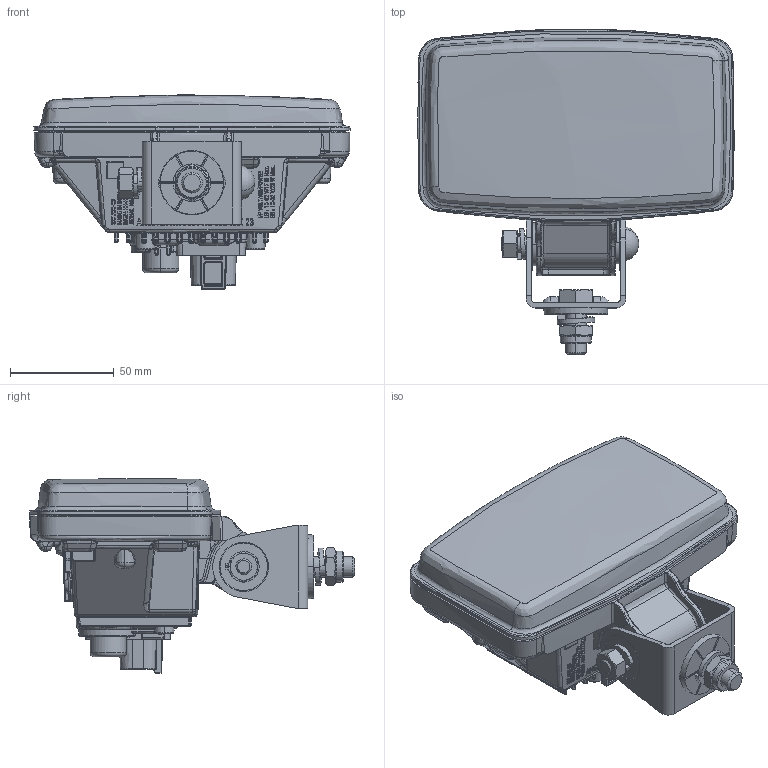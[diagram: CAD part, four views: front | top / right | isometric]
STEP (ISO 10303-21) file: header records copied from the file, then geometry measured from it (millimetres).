
FILE_DESCRIPTION(('CATIA V5 STEP Exchange','CAx-IF Rec.Pracs.--- Model Styling and Organization---1.5--- 2016-08-15','CAx-IF Rec.Pracs.---Supplemental Geometry---1.0---2011-11-01','CAx-IF Rec.Pracs.---Representation and Presentation of Product Manufacturing Information (PMI)---4.0---2014-10-13','CAx-IF Rec.Pracs.--- Composite Materials ---3.4---2017-06-13','CAx-IF Rec.Pracs.---Tessellated 3D Geometry---1.0---2015-12-17'),'2;1');
FILE_NAME('C:\Users\kumaan57\FORVIA\Welcome to the SOE Marketing Team Site - 03_3D data + mounting instruction\Postcard-327.210-00\POSTCARD_V3.stp','2026-05-25T06:08:24+00:00',('none'),('none'),'CATIA Version 5-6 Release 2024 SP3 HF29','CATIA V5 STEP AP242 v3','none');
FILE_SCHEMA(('AP242_MANAGED_MODEL_BASED_3D_ENGINEERING_MIM_LF {1 0 10303 442 3 1 4}'));
Products named in the file (1): POSTCARD_V3
Bounding box: 152.78 x 157 x 93.87 mm (x, y, z)
Volume: 663665.1 mm3; surface area: 86664.6 mm2
Topology: 3 solids, 7 shells, 6232 faces, 16786 edges, 10562 vertices
Faces by surface type: plane 2738, bspline 1279, extrusion 1156, cylinder 705, sphere 146, torus 113, cone 95
Entity records: 299997 total; most frequent: CARTESIAN_POINT 171991, ORIENTED_EDGE 33198, EDGE_CURVE 16599, DIRECTION 14063, VERTEX_POINT 10562, B_SPLINE_CURVE_WITH_KNOTS 10448, VECTOR 6962, EDGE_LOOP 6525
